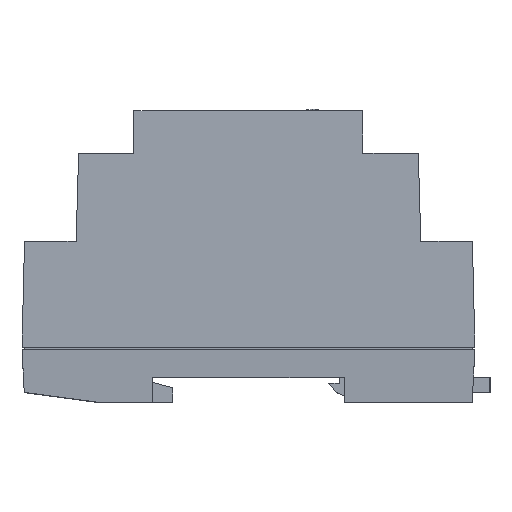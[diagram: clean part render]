
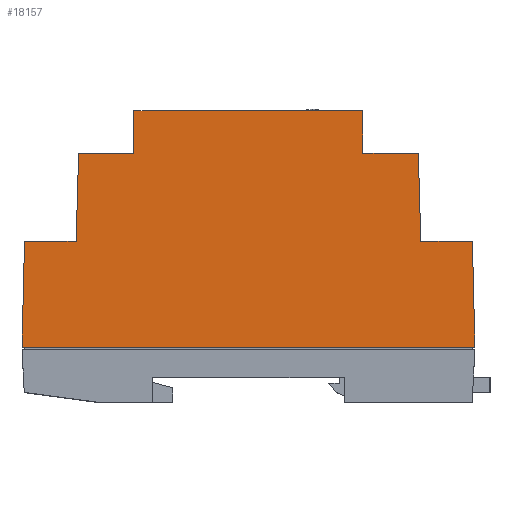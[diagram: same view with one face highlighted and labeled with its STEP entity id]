
A CAD part, top view. The second image highlights one B-rep face of the part: STEP entity #18157.
In plain terms, the highlighted planar face has unit normal (0, 0, 1).
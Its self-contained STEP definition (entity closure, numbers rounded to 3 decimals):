
#15 = CARTESIAN_POINT ( 'NONE',  ( 44.5, 21., 0. ) ) ;
#245 = ORIENTED_EDGE ( 'NONE', *, *, #36059, .T. ) ;
#858 = DIRECTION ( 'NONE',  ( 0., 1., 0. ) ) ;
#897 = CARTESIAN_POINT ( 'NONE',  ( 0., 47., 0. ) ) ;
#932 = CARTESIAN_POINT ( 'NONE',  ( 33.75, 38.5, 0. ) ) ;
#1171 = DIRECTION ( 'NONE',  ( -1., 0., 0. ) ) ;
#1645 = VERTEX_POINT ( 'NONE', #16687 ) ;
#1826 = VERTEX_POINT ( 'NONE', #17226 ) ;
#2392 = ORIENTED_EDGE ( 'NONE', *, *, #35840, .T. ) ;
#2851 = DIRECTION ( 'NONE',  ( -1., 0., 0. ) ) ;
#2964 = LINE ( 'NONE', #5504, #25854 ) ;
#3416 = VECTOR ( 'NONE', #17961, 1000. ) ;
#3679 = AXIS2_PLACEMENT_3D ( 'NONE', #13037, #19106, #1171 ) ;
#3924 = VECTOR ( 'NONE', #27836, 1000. ) ;
#4866 = VECTOR ( 'NONE', #14333, 1000. ) ;
#5090 = CARTESIAN_POINT ( 'NONE',  ( 45., 0., 0. ) ) ;
#5504 = CARTESIAN_POINT ( 'NONE',  ( 0., 0., 0. ) ) ;
#6397 = EDGE_CURVE ( 'NONE', #23735, #19037, #7383, .T. ) ;
#6432 = CARTESIAN_POINT ( 'NONE',  ( 22.75, 38.5, 0. ) ) ;
#6449 = ORIENTED_EDGE ( 'NONE', *, *, #20108, .T. ) ;
#6578 = CARTESIAN_POINT ( 'NONE',  ( 34.25, 21., 0. ) ) ;
#7301 = LINE ( 'NONE', #26305, #30147 ) ;
#7336 = DIRECTION ( 'NONE',  ( 1., 0., 0. ) ) ;
#7383 = LINE ( 'NONE', #897, #22357 ) ;
#7523 = CARTESIAN_POINT ( 'NONE',  ( 33.75, 38.5, 0. ) ) ;
#7569 = LINE ( 'NONE', #14888, #29503 ) ;
#8091 = DIRECTION ( 'NONE',  ( -0.024, 1., 0. ) ) ;
#8284 = CARTESIAN_POINT ( 'NONE',  ( -22.75, 38.5, 0. ) ) ;
#8310 = CARTESIAN_POINT ( 'NONE',  ( -22.75, 38.5, 0. ) ) ;
#8341 = ORIENTED_EDGE ( 'NONE', *, *, #15212, .T. ) ;
#9940 = CARTESIAN_POINT ( 'NONE',  ( 34.25, 21., 0. ) ) ;
#9945 = VERTEX_POINT ( 'NONE', #21680 ) ;
#9988 = LINE ( 'NONE', #21684, #33736 ) ;
#11208 = CARTESIAN_POINT ( 'NONE',  ( -33.75, 38.5, 0. ) ) ;
#11339 = ORIENTED_EDGE ( 'NONE', *, *, #32618, .T. ) ;
#12513 = EDGE_CURVE ( 'NONE', #21935, #19037, #37898, .T. ) ;
#12787 = ORIENTED_EDGE ( 'NONE', *, *, #36736, .T. ) ;
#12792 = VERTEX_POINT ( 'NONE', #23351 ) ;
#12828 = VECTOR ( 'NONE', #858, 1000. ) ;
#12940 = CARTESIAN_POINT ( 'NONE',  ( -45., 0., 0. ) ) ;
#13037 = CARTESIAN_POINT ( 'NONE',  ( 0., 47., 0. ) ) ;
#13246 = VERTEX_POINT ( 'NONE', #932 ) ;
#13761 = LINE ( 'NONE', #33497, #12828 ) ;
#14333 = DIRECTION ( 'NONE',  ( -0.029, 1., 0. ) ) ;
#14888 = CARTESIAN_POINT ( 'NONE',  ( 44.5, 21., 0. ) ) ;
#14904 = ORIENTED_EDGE ( 'NONE', *, *, #36321, .F. ) ;
#15202 = EDGE_CURVE ( 'NONE', #1826, #21935, #21688, .T. ) ;
#15212 = EDGE_CURVE ( 'NONE', #24864, #13246, #28676, .T. ) ;
#16161 = VERTEX_POINT ( 'NONE', #15 ) ;
#16687 = CARTESIAN_POINT ( 'NONE',  ( -44.5, 21., 0. ) ) ;
#16710 = DIRECTION ( 'NONE',  ( -1., 0., 0. ) ) ;
#17226 = CARTESIAN_POINT ( 'NONE',  ( -33.75, 38.5, 0. ) ) ;
#17961 = DIRECTION ( 'NONE',  ( 0., 1., 0. ) ) ;
#18157 = ADVANCED_FACE ( 'NONE', ( #30440 ), #33826, .F. ) ;
#18560 = ORIENTED_EDGE ( 'NONE', *, *, #32039, .F. ) ;
#19037 = VERTEX_POINT ( 'NONE', #23595 ) ;
#19106 = DIRECTION ( 'NONE',  ( 0., 0., -1. ) ) ;
#20093 = VECTOR ( 'NONE', #8091, 1000. ) ;
#20108 = EDGE_CURVE ( 'NONE', #13246, #33326, #26944, .T. ) ;
#20285 = ORIENTED_EDGE ( 'NONE', *, *, #6397, .T. ) ;
#20441 = DIRECTION ( 'NONE',  ( 1., 0., 0. ) ) ;
#20612 = ORIENTED_EDGE ( 'NONE', *, *, #15202, .F. ) ;
#20792 = VECTOR ( 'NONE', #28273, 1000. ) ;
#21502 = EDGE_LOOP ( 'NONE', ( #20285, #24591, #20612, #35211, #18560, #14904, #245, #11339, #12787, #8341, #6449, #2392 ) ) ;
#21680 = CARTESIAN_POINT ( 'NONE',  ( 45., 0., 0. ) ) ;
#21684 = CARTESIAN_POINT ( 'NONE',  ( -44.5, 21., 0. ) ) ;
#21688 = LINE ( 'NONE', #11208, #20792 ) ;
#21935 = VERTEX_POINT ( 'NONE', #8310 ) ;
#22357 = VECTOR ( 'NONE', #24521, 1000. ) ;
#23351 = CARTESIAN_POINT ( 'NONE',  ( -34.25, 21., 0. ) ) ;
#23595 = CARTESIAN_POINT ( 'NONE',  ( -22.75, 47., 0. ) ) ;
#23735 = VERTEX_POINT ( 'NONE', #36306 ) ;
#24521 = DIRECTION ( 'NONE',  ( -1., 0., 0. ) ) ;
#24591 = ORIENTED_EDGE ( 'NONE', *, *, #12513, .F. ) ;
#24864 = VERTEX_POINT ( 'NONE', #9940 ) ;
#25854 = VECTOR ( 'NONE', #20441, 1000. ) ;
#26305 = CARTESIAN_POINT ( 'NONE',  ( -34.25, 21., 0. ) ) ;
#26804 = LINE ( 'NONE', #12940, #3924 ) ;
#26944 = LINE ( 'NONE', #7523, #34824 ) ;
#27808 = VERTEX_POINT ( 'NONE', #32768 ) ;
#27836 = DIRECTION ( 'NONE',  ( 0.024, 1., 0. ) ) ;
#28273 = DIRECTION ( 'NONE',  ( 1., 0., 0. ) ) ;
#28676 = LINE ( 'NONE', #6578, #4866 ) ;
#29265 = DIRECTION ( 'NONE',  ( 0.029, 1., 0. ) ) ;
#29503 = VECTOR ( 'NONE', #2851, 1000. ) ;
#30147 = VECTOR ( 'NONE', #29265, 1000. ) ;
#30440 = FACE_OUTER_BOUND ( 'NONE', #21502, .T. ) ;
#32039 = EDGE_CURVE ( 'NONE', #1645, #12792, #9988, .T. ) ;
#32618 = EDGE_CURVE ( 'NONE', #9945, #16161, #36724, .T. ) ;
#32768 = CARTESIAN_POINT ( 'NONE',  ( -45., 0., 0. ) ) ;
#33326 = VERTEX_POINT ( 'NONE', #6432 ) ;
#33497 = CARTESIAN_POINT ( 'NONE',  ( 22.75, 38.5, 0. ) ) ;
#33736 = VECTOR ( 'NONE', #7336, 1000. ) ;
#33776 = EDGE_CURVE ( 'NONE', #12792, #1826, #7301, .T. ) ;
#33826 = PLANE ( 'NONE',  #3679 ) ;
#34824 = VECTOR ( 'NONE', #16710, 1000. ) ;
#35211 = ORIENTED_EDGE ( 'NONE', *, *, #33776, .F. ) ;
#35840 = EDGE_CURVE ( 'NONE', #33326, #23735, #13761, .T. ) ;
#36059 = EDGE_CURVE ( 'NONE', #27808, #9945, #2964, .T. ) ;
#36306 = CARTESIAN_POINT ( 'NONE',  ( 22.75, 47., 0. ) ) ;
#36321 = EDGE_CURVE ( 'NONE', #27808, #1645, #26804, .T. ) ;
#36724 = LINE ( 'NONE', #5090, #20093 ) ;
#36736 = EDGE_CURVE ( 'NONE', #16161, #24864, #7569, .T. ) ;
#37898 = LINE ( 'NONE', #8284, #3416 ) ;
